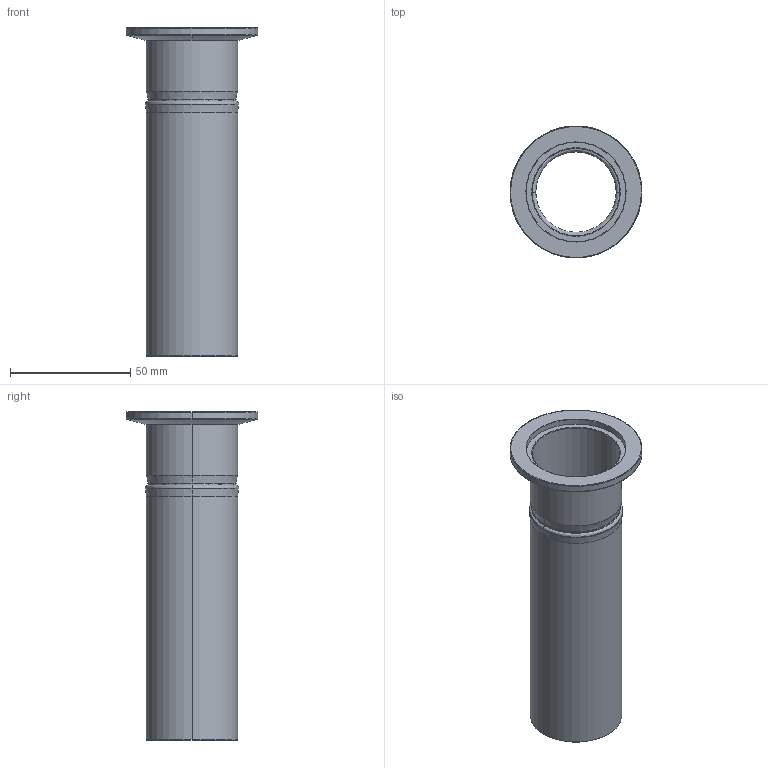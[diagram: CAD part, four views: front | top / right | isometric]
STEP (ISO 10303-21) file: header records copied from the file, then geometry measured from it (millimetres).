
FILE_DESCRIPTION (( 'STEP AP203' ), '1' );
FILE_NAME ('211026.stp', '2018-05-21T21:15:20', ( '' ), ( '' ), 'SwSTEP 2.0', 'SolidWorks 2012', '' );
FILE_SCHEMA (( 'CONFIG_CONTROL_DESIGN' ));
Length unit declared in the file: centimetre
Products named in the file (1): 211026
Bounding box: 54.86 x 54.86 x 136.53 mm (x, y, z)
Volume: 31715.9 mm3; surface area: 34017.6 mm2
Topology: 1 solids, 1 shells, 333 faces, 864 edges, 563 vertices
Faces by surface type: bspline 154, plane 118, cylinder 51, cone 10
Entity records: 33375 total; most frequent: CARTESIAN_POINT 26312, ORIENTED_EDGE 1728, DIRECTION 973, EDGE_CURVE 864, VERTEX_POINT 563, EDGE_LOOP 365, B_SPLINE_CURVE_WITH_KNOTS 364, ADVANCED_FACE 333
